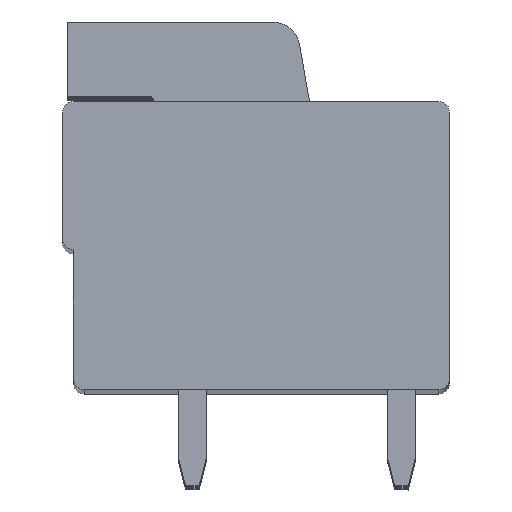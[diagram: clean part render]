
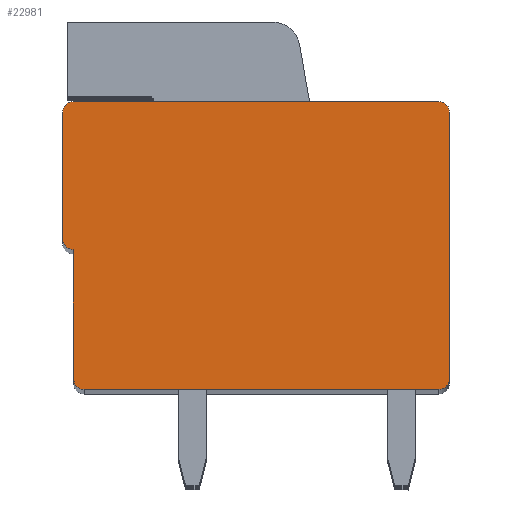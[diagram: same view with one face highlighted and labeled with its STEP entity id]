
A CAD part, top view. The second image highlights one B-rep face of the part: STEP entity #22981.
In plain terms, the highlighted planar face has unit normal (0, 0, 1).
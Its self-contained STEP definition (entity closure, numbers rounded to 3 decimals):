
#3221=DIRECTION('',(-1.,0.,0.));
#3222=VECTOR('',#3221,13.304);
#3223=CARTESIAN_POINT('',(13.702,14.,0.));
#3224=LINE('',#3223,#3222);
#6842=DIRECTION('',(0.,-1.,0.));
#6843=VECTOR('',#6842,4.607);
#6844=CARTESIAN_POINT('',(0.002,13.603,0.));
#6845=LINE('',#6844,#6843);
#7236=DIRECTION('',(0.,-1.,0.));
#7237=VECTOR('',#7236,4.698);
#7238=CARTESIAN_POINT('',(0.4,8.6,0.));
#7239=LINE('',#7238,#7237);
#7373=CARTESIAN_POINT('',(13.702,13.6,0.));
#7374=DIRECTION('',(0.,0.,-1.));
#7375=DIRECTION('',(0.,1.,0.));
#7376=AXIS2_PLACEMENT_3D('',#7373,#7374,#7375);
#7378=DIRECTION('',(0.,-1.,0.));
#7379=VECTOR('',#7378,9.7);
#7380=CARTESIAN_POINT('',(14.102,13.6,0.));
#7381=LINE('',#7380,#7379);
#7382=CARTESIAN_POINT('',(13.702,3.9,0.));
#7383=DIRECTION('',(0.,0.,-1.));
#7384=DIRECTION('',(1.,0.,0.));
#7385=AXIS2_PLACEMENT_3D('',#7382,#7383,#7384);
#7387=DIRECTION('',(-1.,0.,0.));
#7388=VECTOR('',#7387,12.902);
#7389=CARTESIAN_POINT('',(13.702,3.5,0.));
#7390=LINE('',#7389,#7388);
#7391=CARTESIAN_POINT('',(0.8,3.9,0.));
#7392=DIRECTION('',(0.,0.,-1.));
#7393=DIRECTION('',(0.001,-1.,0.));
#7394=AXIS2_PLACEMENT_3D('',#7391,#7392,#7393);
#7396=CARTESIAN_POINT('',(0.4,9.,0.));
#7397=DIRECTION('',(0.,0.,-1.));
#7398=DIRECTION('',(-0.001,-1.,0.));
#7399=AXIS2_PLACEMENT_3D('',#7396,#7397,#7398);
#7401=CARTESIAN_POINT('',(0.398,13.604,0.));
#7402=DIRECTION('',(0.,0.,-1.));
#7403=DIRECTION('',(-1.,-0.003,0.));
#7404=AXIS2_PLACEMENT_3D('',#7401,#7402,#7403);
#9626=CARTESIAN_POINT('',(0.8,3.5,0.));
#9628=VERTEX_POINT('',#9626);
#9630=CARTESIAN_POINT('',(13.702,14.,0.));
#9631=CARTESIAN_POINT('',(14.102,13.6,0.));
#9632=VERTEX_POINT('',#9630);
#9633=VERTEX_POINT('',#9631);
#9634=CARTESIAN_POINT('',(14.102,3.9,0.));
#9635=VERTEX_POINT('',#9634);
#9636=CARTESIAN_POINT('',(13.702,3.5,0.));
#9637=VERTEX_POINT('',#9636);
#9638=CARTESIAN_POINT('',(0.4,3.902,0.));
#9639=VERTEX_POINT('',#9638);
#9640=CARTESIAN_POINT('',(0.4,8.6,0.));
#9641=VERTEX_POINT('',#9640);
#9642=CARTESIAN_POINT('',(0.,8.996,0.));
#9643=VERTEX_POINT('',#9642);
#9644=CARTESIAN_POINT('',(0.002,13.603,0.));
#9645=VERTEX_POINT('',#9644);
#9646=CARTESIAN_POINT('',(0.398,14.,0.));
#9647=VERTEX_POINT('',#9646);
#22964=CARTESIAN_POINT('',(7.051,8.75,0.));
#22965=DIRECTION('',(0.,0.,1.));
#22966=DIRECTION('',(1.,0.,0.));
#22967=AXIS2_PLACEMENT_3D('',#22964,#22965,#22966);
#22968=PLANE('',#22967);
#22969=ORIENTED_EDGE('',*,*,#17091,.T.);
#22970=ORIENTED_EDGE('',*,*,#17025,.T.);
#22971=ORIENTED_EDGE('',*,*,#16959,.T.);
#22972=ORIENTED_EDGE('',*,*,#12896,.T.);
#22973=ORIENTED_EDGE('',*,*,#22890,.T.);
#22974=ORIENTED_EDGE('',*,*,#22824,.F.);
#22975=ORIENTED_EDGE('',*,*,#22804,.T.);
#22976=ORIENTED_EDGE('',*,*,#22368,.F.);
#22977=ORIENTED_EDGE('',*,*,#22299,.T.);
#22978=ORIENTED_EDGE('',*,*,#17157,.F.);
#22979=EDGE_LOOP('',(#22969,#22970,#22971,#22972,#22973,#22974,#22975,#22976,
#22977,#22978));
#22980=FACE_OUTER_BOUND('',#22979,.F.);
#7377=CIRCLE('',#7376,0.4);
#7386=CIRCLE('',#7385,0.4);
#7395=CIRCLE('',#7394,0.4);
#7400=CIRCLE('',#7399,0.4);
#7405=CIRCLE('',#7404,0.396);
#12896=EDGE_CURVE('',#9637,#9628,#7390,.T.);
#16959=EDGE_CURVE('',#9635,#9637,#7386,.T.);
#17025=EDGE_CURVE('',#9633,#9635,#7381,.T.);
#17091=EDGE_CURVE('',#9632,#9633,#7377,.T.);
#17157=EDGE_CURVE('',#9632,#9647,#3224,.T.);
#22299=EDGE_CURVE('',#9645,#9647,#7405,.T.);
#22368=EDGE_CURVE('',#9645,#9643,#6845,.T.);
#22804=EDGE_CURVE('',#9641,#9643,#7400,.T.);
#22824=EDGE_CURVE('',#9641,#9639,#7239,.T.);
#22890=EDGE_CURVE('',#9628,#9639,#7395,.T.);
#22981=ADVANCED_FACE('',(#22980),#22968,.T.);
